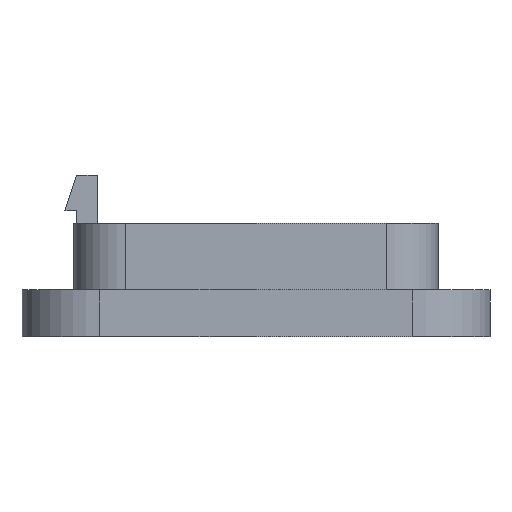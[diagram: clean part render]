
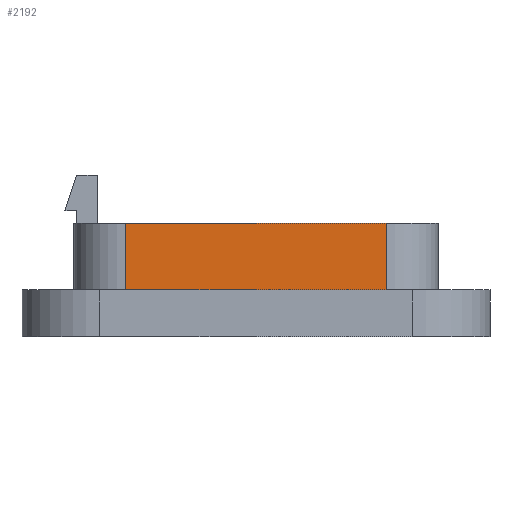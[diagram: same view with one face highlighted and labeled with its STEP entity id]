
A CAD part, left-side view. The second image highlights one B-rep face of the part: STEP entity #2192.
In plain terms, the highlighted planar face has unit normal (-1, 0, 0).
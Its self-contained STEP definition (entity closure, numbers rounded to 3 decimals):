
#100 = PLANE('',#101);
#101 = AXIS2_PLACEMENT_3D('',#102,#103,#104);
#102 = CARTESIAN_POINT('',(0.,0.,1.8));
#103 = DIRECTION('',(0.,0.,1.));
#104 = DIRECTION('',(1.,0.,-0.));
#855 = VERTEX_POINT('',#856);
#856 = CARTESIAN_POINT('',(-14.,-5.,1.8));
#871 = CYLINDRICAL_SURFACE('',#872,2.);
#872 = AXIS2_PLACEMENT_3D('',#873,#874,#875);
#873 = CARTESIAN_POINT('',(-12.,-5.,1.75));
#874 = DIRECTION('',(0.,0.,1.));
#875 = DIRECTION('',(0.,-1.,0.));
#883 = EDGE_CURVE('',#855,#884,#886,.T.);
#884 = VERTEX_POINT('',#885);
#885 = CARTESIAN_POINT('',(-14.,5.,1.8));
#886 = SURFACE_CURVE('',#887,(#891,#897),.PCURVE_S1.);
#887 = LINE('',#888,#889);
#888 = CARTESIAN_POINT('',(-14.,3.5,1.8));
#889 = VECTOR('',#890,1.);
#890 = DIRECTION('',(-0.,1.,0.));
#891 = PCURVE('',#100,#892);
#892 = DEFINITIONAL_REPRESENTATION('',(#893),#896);
#893 = B_SPLINE_CURVE_WITH_KNOTS('',1,(#894,#895),.UNSPECIFIED.,.F.,.F.,
  (2,2),(-8.5,1.5),.PIECEWISE_BEZIER_KNOTS.);
#894 = CARTESIAN_POINT('',(-14.,-5.));
#895 = CARTESIAN_POINT('',(-14.,5.));
#896 = ( GEOMETRIC_REPRESENTATION_CONTEXT(2) 
PARAMETRIC_REPRESENTATION_CONTEXT() REPRESENTATION_CONTEXT('2D SPACE',''
  ) );
#897 = PCURVE('',#898,#903);
#898 = PLANE('',#899);
#899 = AXIS2_PLACEMENT_3D('',#900,#901,#902);
#900 = CARTESIAN_POINT('',(-14.,7.,1.75));
#901 = DIRECTION('',(1.,0.,-0.));
#902 = DIRECTION('',(0.,-1.,0.));
#903 = DEFINITIONAL_REPRESENTATION('',(#904),#907);
#904 = B_SPLINE_CURVE_WITH_KNOTS('',1,(#905,#906),.UNSPECIFIED.,.F.,.F.,
  (2,2),(-8.5,1.5),.PIECEWISE_BEZIER_KNOTS.);
#905 = CARTESIAN_POINT('',(12.,-0.05));
#906 = CARTESIAN_POINT('',(2.,-0.05));
#907 = ( GEOMETRIC_REPRESENTATION_CONTEXT(2) 
PARAMETRIC_REPRESENTATION_CONTEXT() REPRESENTATION_CONTEXT('2D SPACE',''
  ) );
#926 = CYLINDRICAL_SURFACE('',#927,2.);
#927 = AXIS2_PLACEMENT_3D('',#928,#929,#930);
#928 = CARTESIAN_POINT('',(-12.,5.,1.75));
#929 = DIRECTION('',(0.,0.,1.));
#930 = DIRECTION('',(-0.,1.,0.));
#2083 = PLANE('',#2084);
#2084 = AXIS2_PLACEMENT_3D('',#2085,#2086,#2087);
#2085 = CARTESIAN_POINT('',(0.,0.,4.35));
#2086 = DIRECTION('',(0.,0.,1.));
#2087 = DIRECTION('',(1.,0.,-0.));
#2148 = EDGE_CURVE('',#884,#2149,#2151,.T.);
#2149 = VERTEX_POINT('',#2150);
#2150 = CARTESIAN_POINT('',(-14.,5.,4.35));
#2151 = SURFACE_CURVE('',#2152,(#2156,#2163),.PCURVE_S1.);
#2152 = LINE('',#2153,#2154);
#2153 = CARTESIAN_POINT('',(-14.,5.,1.75));
#2154 = VECTOR('',#2155,1.);
#2155 = DIRECTION('',(0.,0.,1.));
#2156 = PCURVE('',#926,#2157);
#2157 = DEFINITIONAL_REPRESENTATION('',(#2158),#2162);
#2158 = LINE('',#2159,#2160);
#2159 = CARTESIAN_POINT('',(1.571,0.));
#2160 = VECTOR('',#2161,1.);
#2161 = DIRECTION('',(0.,1.));
#2162 = ( GEOMETRIC_REPRESENTATION_CONTEXT(2) 
PARAMETRIC_REPRESENTATION_CONTEXT() REPRESENTATION_CONTEXT('2D SPACE',''
  ) );
#2163 = PCURVE('',#898,#2164);
#2164 = DEFINITIONAL_REPRESENTATION('',(#2165),#2169);
#2165 = LINE('',#2166,#2167);
#2166 = CARTESIAN_POINT('',(2.,0.));
#2167 = VECTOR('',#2168,1.);
#2168 = DIRECTION('',(0.,-1.));
#2169 = ( GEOMETRIC_REPRESENTATION_CONTEXT(2) 
PARAMETRIC_REPRESENTATION_CONTEXT() REPRESENTATION_CONTEXT('2D SPACE',''
  ) );
#2192 = ADVANCED_FACE('',(#2193),#898,.F.);
#2193 = FACE_BOUND('',#2194,.F.);
#2194 = EDGE_LOOP('',(#2195,#2196,#2197,#2220));
#2195 = ORIENTED_EDGE('',*,*,#883,.T.);
#2196 = ORIENTED_EDGE('',*,*,#2148,.T.);
#2197 = ORIENTED_EDGE('',*,*,#2198,.T.);
#2198 = EDGE_CURVE('',#2149,#2199,#2201,.T.);
#2199 = VERTEX_POINT('',#2200);
#2200 = CARTESIAN_POINT('',(-14.,-5.,4.35));
#2201 = SURFACE_CURVE('',#2202,(#2206,#2213),.PCURVE_S1.);
#2202 = LINE('',#2203,#2204);
#2203 = CARTESIAN_POINT('',(-14.,7.,4.35));
#2204 = VECTOR('',#2205,1.);
#2205 = DIRECTION('',(0.,-1.,0.));
#2206 = PCURVE('',#898,#2207);
#2207 = DEFINITIONAL_REPRESENTATION('',(#2208),#2212);
#2208 = LINE('',#2209,#2210);
#2209 = CARTESIAN_POINT('',(0.,-2.6));
#2210 = VECTOR('',#2211,1.);
#2211 = DIRECTION('',(1.,0.));
#2212 = ( GEOMETRIC_REPRESENTATION_CONTEXT(2) 
PARAMETRIC_REPRESENTATION_CONTEXT() REPRESENTATION_CONTEXT('2D SPACE',''
  ) );
#2213 = PCURVE('',#2083,#2214);
#2214 = DEFINITIONAL_REPRESENTATION('',(#2215),#2219);
#2215 = LINE('',#2216,#2217);
#2216 = CARTESIAN_POINT('',(-14.,7.));
#2217 = VECTOR('',#2218,1.);
#2218 = DIRECTION('',(0.,-1.));
#2219 = ( GEOMETRIC_REPRESENTATION_CONTEXT(2) 
PARAMETRIC_REPRESENTATION_CONTEXT() REPRESENTATION_CONTEXT('2D SPACE',''
  ) );
#2220 = ORIENTED_EDGE('',*,*,#2221,.F.);
#2221 = EDGE_CURVE('',#855,#2199,#2222,.T.);
#2222 = SURFACE_CURVE('',#2223,(#2227,#2234),.PCURVE_S1.);
#2223 = LINE('',#2224,#2225);
#2224 = CARTESIAN_POINT('',(-14.,-5.,1.75));
#2225 = VECTOR('',#2226,1.);
#2226 = DIRECTION('',(0.,0.,1.));
#2227 = PCURVE('',#898,#2228);
#2228 = DEFINITIONAL_REPRESENTATION('',(#2229),#2233);
#2229 = LINE('',#2230,#2231);
#2230 = CARTESIAN_POINT('',(12.,0.));
#2231 = VECTOR('',#2232,1.);
#2232 = DIRECTION('',(0.,-1.));
#2233 = ( GEOMETRIC_REPRESENTATION_CONTEXT(2) 
PARAMETRIC_REPRESENTATION_CONTEXT() REPRESENTATION_CONTEXT('2D SPACE',''
  ) );
#2234 = PCURVE('',#871,#2235);
#2235 = DEFINITIONAL_REPRESENTATION('',(#2236),#2240);
#2236 = LINE('',#2237,#2238);
#2237 = CARTESIAN_POINT('',(-1.571,0.));
#2238 = VECTOR('',#2239,1.);
#2239 = DIRECTION('',(-0.,1.));
#2240 = ( GEOMETRIC_REPRESENTATION_CONTEXT(2) 
PARAMETRIC_REPRESENTATION_CONTEXT() REPRESENTATION_CONTEXT('2D SPACE',''
  ) );
